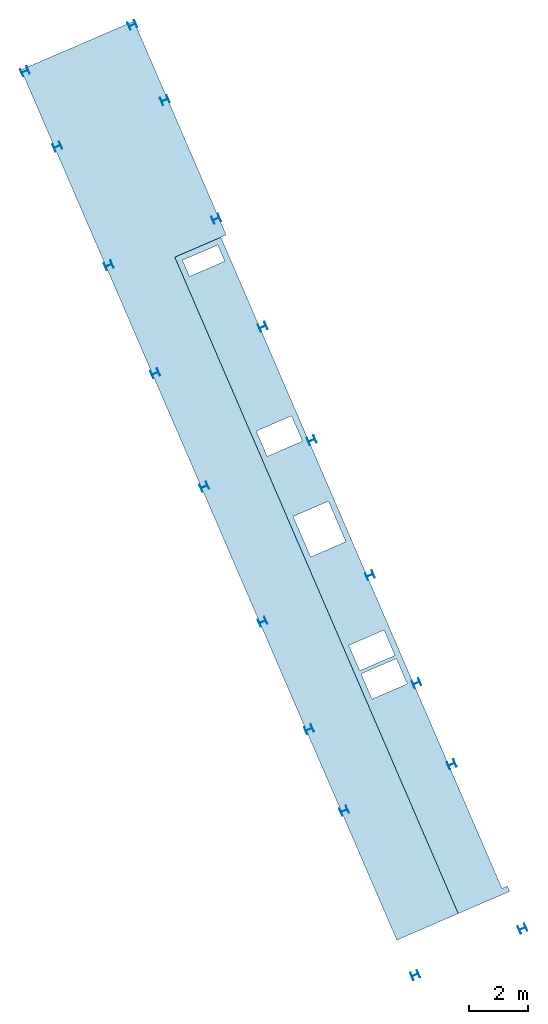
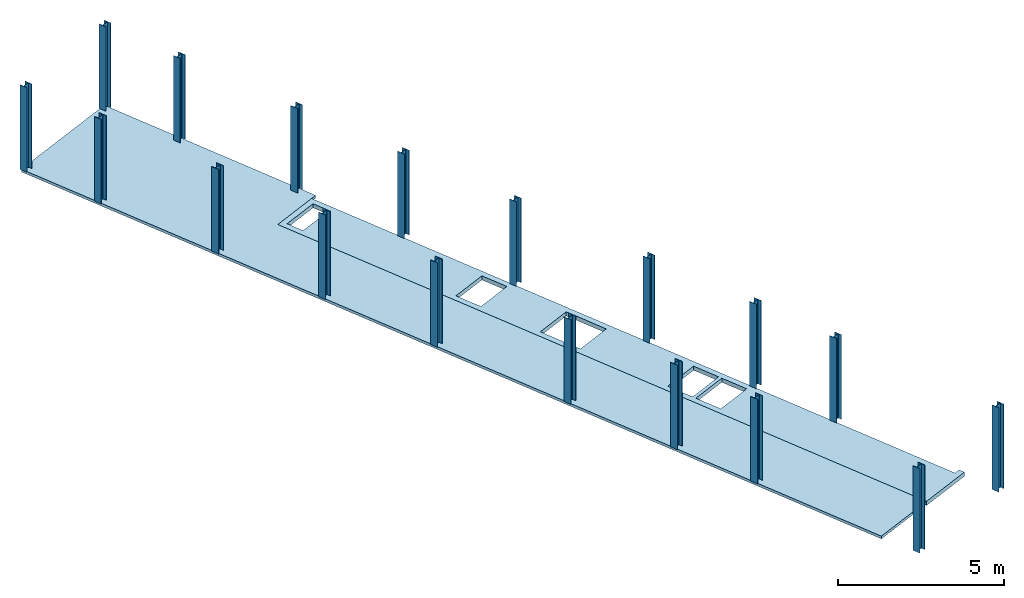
# One storey: 18 columns, 2 slabs, 5 openings.
"""IFC4 building model written with IfcOpenShell, lengths in metres."""

from ifc_helpers import new_model, entity, si_unit, converted_unit, derived_unit, direction, frame, origin, place, context, subcontext, project, spatial, line, arc, indexed_curve, outline, extrude, source, transform, mapped, material, type_object, type_shapes, element, save


model = new_model("IFC4")

# Units and contexts
model_context = context("Model", 3, precision=1e-05, world=origin(), true_north=direction((6.123233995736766e-17, 1.0)))
body_context = subcontext(model_context, "Body", "Model", "MODEL_VIEW")
ifc_project = project(units=[si_unit("LENGTHUNIT", "METRE"), si_unit("AREAUNIT", "SQUARE_METRE"), si_unit("VOLUMEUNIT", "CUBIC_METRE"), converted_unit("PLANEANGLEUNIT", "DEGREE", entity("IfcPlaneAngleMeasure", 0.017453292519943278), si_unit("PLANEANGLEUNIT", "RADIAN"), dimensions=[0, 0, 0, 0, 0, 0, 0]), derived_unit("THERMALTRANSMITTANCEUNIT", [(si_unit("MASSUNIT", "GRAM", prefix="KILO"), 1), (si_unit("THERMODYNAMICTEMPERATUREUNIT", "KELVIN"), -1), (si_unit("TIMEUNIT", "SECOND"), -3)]), derived_unit("USERDEFINED", [(si_unit("MASSUNIT", "GRAM", prefix="KILO"), 1), (si_unit("THERMODYNAMICTEMPERATUREUNIT", "KELVIN"), -1), (si_unit("TIMEUNIT", "SECOND"), -2)]), derived_unit("THERMALRESISTANCEUNIT", [(si_unit("MASSUNIT", "GRAM", prefix="KILO"), -1), (si_unit("TIMEUNIT", "SECOND"), 3), (si_unit("THERMODYNAMICTEMPERATUREUNIT", "KELVIN"), 1)]), si_unit("MASSUNIT", "GRAM", prefix="KILO"), derived_unit("MOMENTOFINERTIAUNIT", [(si_unit("LENGTHUNIT", "METRE"), 4)]), derived_unit("LINEARFORCEUNIT", [(si_unit("MASSUNIT", "GRAM", prefix="KILO"), 1), (si_unit("TIMEUNIT", "SECOND"), -2)]), derived_unit("WARPINGCONSTANTUNIT", [(si_unit("LENGTHUNIT", "METRE"), 6)])], contexts=[model_context])

# Site, building, storey
site_placement = place(None, origin())
site = spatial("IfcSite", under=ifc_project, at=site_placement, Name="Default", CompositionType="ELEMENT")
building_placement = place(site_placement, frame((-21.752541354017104, -73.50235179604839, 317.2999999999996), z_axis=(0.0, 0.0, 1.0), x_axis=(-0.39637753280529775, 0.918087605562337, 0.0)))
building = spatial("IfcBuilding", under=site, at=building_placement, Name="CESFAM Coyhaique", CompositionType="ELEMENT")
storey_placement = place(building_placement, frame((0.0, 0.0, -0.5499999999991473)))
storey = spatial("IfcBuildingStorey", under=building, at=storey_placement, Name="Nivel 1", CompositionType="ELEMENT", Elevation=-0.5499999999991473)

# Columns
ifc_material_1 = material(Name="Steel, 45-345", Category="Metal")
column_type_1 = type_object("IfcColumnType", Name="M_HP-Bearing Pile-Column:HP250X85", PredefinedType="COLUMN", material=ifc_material_1)
shared_shape_1 = source(origin(), body_context, "Body", "SweptSolid", [
    extrude(outline(indexed_curve([(-0.12999999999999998, -0.127), (0.12999999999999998, -0.127), (0.12999999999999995, -0.1126), (0.024800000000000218, -0.11260000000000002), (0.012354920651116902, -0.10744507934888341), (0.007199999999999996, -0.09499999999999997), (0.007199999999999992, 0.09499999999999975), (0.012354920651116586, 0.10744507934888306), (0.024799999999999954, 0.1126), (0.12999999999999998, 0.1126), (0.12999999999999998, 0.12699999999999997), (-0.12999999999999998, 0.12699999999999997), (-0.12999999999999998, 0.1126), (-0.02480000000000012, 0.11259999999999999), (-0.01235492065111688, 0.10744507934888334), (-0.007200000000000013, 0.09500000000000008), (-0.0072000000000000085, -0.09499999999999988), (-0.01235492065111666, -0.10744507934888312), (-0.024800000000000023, -0.1126), (-0.12999999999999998, -0.1126)], segments=[line(1, 2, 3, 4), arc(4, 5, 6), line(6, 7), arc(7, 8, 9), line(9, 10, 11, 12, 13, 14), arc(14, 15, 16), line(16, 17), arc(17, 18, 19), line(19, 20, 1)], self_intersect=False)), frame((0.0, 0.0, -0.5499999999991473), z_axis=(0.0, 0.0, 1.0), x_axis=(-1.0, 0.0, 0.0)), (0.0, 0.0, 1.0), 3.09999880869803),
])
type_shapes(column_type_1, [shared_shape_1])
for number, where in (
    (1, (-11.760106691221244, 5.81825811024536, 0.5499999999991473)),
    (2, (14.524893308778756, 5.818258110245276, 0.5499999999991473)),
    (3, (10.524893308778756, 5.8182581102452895, 0.5499999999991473)),
    (4, (6.324893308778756, 5.818258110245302, 0.5499999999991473)),
    (5, (1.3248933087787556, 5.818258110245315, 0.5499999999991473)),
    (6, (-2.665106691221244, 5.818258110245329, 0.5499999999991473)),
    (7, (-5.675106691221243, 5.818258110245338, 0.5499999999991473)),
    (8, (18.924893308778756, 5.818258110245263, 0.5499999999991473)),
    (9, (21.709893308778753, 5.818258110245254, 0.5499999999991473)),
):
    element("IfcColumn", number, at=place(storey_placement, frame(where)), inside=storey, type_object=column_type_1, Name="M_HP-Bearing Pile-Column:HP250X85", ObjectType="M_HP-Bearing Pile-Column:HP250X85", PredefinedType="COLUMN", context=body_context, shape_type="MappedRepresentation", body=[
        mapped(shared_shape_1, transform((0.0, 0.0, 0.0), scale=1.0)),
    ])
column_type_2 = type_object("IfcColumnType", Name="M_HP-Bearing Pile-Column:HP250X85", PredefinedType="COLUMN", material=ifc_material_1)
shared_shape_2 = source(origin(), body_context, "Body", "SweptSolid", [
    extrude(outline(indexed_curve([(-0.127, -0.12999999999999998), (-0.11259999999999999, -0.12999999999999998), (-0.11259999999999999, -0.02479999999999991), (-0.1074450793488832, -0.012354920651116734), (-0.09499999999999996, -0.007200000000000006), (0.09500000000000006, -0.0072000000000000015), (0.10744507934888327, -0.012354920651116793), (0.11260000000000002, -0.024800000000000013), (0.11260000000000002, -0.12999999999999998), (0.127, -0.12999999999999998), (0.127, 0.12999999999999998), (0.11260000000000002, 0.12999999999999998), (0.11259999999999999, 0.024799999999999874), (0.10744507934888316, 0.012354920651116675), (0.09499999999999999, 0.007200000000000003), (-0.0950000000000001, 0.007199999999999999), (-0.1074450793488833, 0.012354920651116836), (-0.11260000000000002, 0.024799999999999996), (-0.11259999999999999, 0.12999999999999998), (-0.127, 0.12999999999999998)], segments=[line(1, 2, 3), arc(3, 4, 5), line(5, 6), arc(6, 7, 8), line(8, 9, 10, 11, 12, 13), arc(13, 14, 15), line(15, 16), arc(16, 17, 18), line(18, 19, 20, 1)], self_intersect=False)), frame((0.0, 0.0, -0.5499999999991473), z_axis=(0.0, 0.0, 1.0), x_axis=(0.0, 1.0, 0.0)), (0.0, 0.0, 1.0), 3.09999880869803),
])
type_shapes(column_type_2, [shared_shape_2])
for number, where in (
    (10, (-11.76010669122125, 1.8382581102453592, 0.5499999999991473)),
    (11, (14.52489330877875, 1.8382581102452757, 0.5499999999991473)),
    (12, (10.524893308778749, 1.838258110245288, 0.5499999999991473)),
    (13, (6.324893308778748, 1.8382581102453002, 0.5499999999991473)),
    (14, (1.324893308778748, 1.8382581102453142, 0.5499999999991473)),
    (15, (-2.6651066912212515, 1.8382581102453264, 0.5499999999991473)),
    (16, (-5.67510669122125, 1.8382581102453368, 0.5499999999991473)),
    (17, (18.92489330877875, 1.8382581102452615, 0.5499999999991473)),
    (18, (21.709893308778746, 1.8382581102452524, 0.5499999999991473)),
):
    element("IfcColumn", number, at=place(storey_placement, frame(where)), inside=storey, type_object=column_type_2, Name="M_HP-Bearing Pile-Column:HP250X85", ObjectType="M_HP-Bearing Pile-Column:HP250X85", PredefinedType="COLUMN", context=body_context, shape_type="MappedRepresentation", body=[
        mapped(shared_shape_2, transform((0.0, 0.0, 0.0), scale=1.0)),
    ])

# Slab, openings
ifc_material_2 = material(Name="HA")
slab_type_1 = type_object("IfcSlabType", Name="Floor:Losa HA 150mm", PredefinedType="FLOOR", material=ifc_material_2)
slab_1_placement = place(storey_placement, origin())
slab_1 = element("IfcSlab", 19, at=slab_1_placement, inside=storey, type_object=slab_type_1, material=ifc_material_2, Name="Floor:Losa HA 150mm", ObjectType="Floor:Losa HA 150mm", PredefinedType="FLOOR", context=body_context, shape_type="SweptSolid", body=[
    extrude(outline(indexed_curve([(-12.461190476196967, -1.4807553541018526), (-12.261190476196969, -1.4807553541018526), (11.853809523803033, -1.4807553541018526), (11.853809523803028, 0.22457033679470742), (11.853809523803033, 0.4245703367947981), (11.653809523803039, 0.42457033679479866), (11.653809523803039, 0.22457033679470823), (7.403809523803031, 0.22457033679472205), (6.803809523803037, 0.22457033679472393), (4.393809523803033, 0.2245703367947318), (3.7938095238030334, 0.22457033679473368), (0.4038095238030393, 0.22457033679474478), (-0.1961904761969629, 0.22457033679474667), (-1.171190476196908, 0.22457033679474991), (-2.871190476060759, 0.22457033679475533), (-4.596190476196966, 0.22457033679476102), (-5.196190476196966, 0.2245703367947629), (-8.79619047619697, 0.22457033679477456), (-9.396190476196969, 0.22457033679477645), (-12.261190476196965, 0.22457033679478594), (-12.461190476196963, 0.22457033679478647), (-12.461190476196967, -1.4807553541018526)], self_intersect=False), holes=[indexed_curve([(-11.661190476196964, -1.280755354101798), (-12.261190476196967, -1.280755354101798), (-12.261190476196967, 0.02457033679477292), (-11.661190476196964, 0.02457033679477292), (-11.661190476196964, -1.280755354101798)], self_intersect=False), indexed_curve([(-4.996190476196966, -1.2807553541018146), (-5.931190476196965, -1.2807553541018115), (-5.931190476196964, 0.02457033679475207), (-5.196190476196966, 0.024570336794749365), (-4.996190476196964, 0.024570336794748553), (-4.996190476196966, -1.2807553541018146)], self_intersect=False), indexed_curve([(-1.2711904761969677, -1.2807553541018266), (-2.771190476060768, -1.2807553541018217), (-2.7711904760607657, 0.02457033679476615), (-1.2711904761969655, 0.024570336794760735), (-1.2711904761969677, -1.2807553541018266)], self_intersect=False), indexed_curve([(3.993809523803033, -1.280755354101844), (3.0588095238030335, -1.2807553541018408), (3.0588095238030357, 0.024570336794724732), (3.793809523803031, 0.024570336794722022), (3.9938095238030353, 0.02457033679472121), (3.993809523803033, -1.280755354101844)], self_intersect=False), indexed_curve([(2.9388095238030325, -1.2807553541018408), (2.003809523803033, -1.2807553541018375), (2.003809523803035, 0.02457033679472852), (2.9388095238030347, 0.024570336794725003), (2.9388095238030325, -1.2807553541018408)], self_intersect=False)]), frame((1.428702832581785, 2.162828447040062, -0.15000000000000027), z_axis=(0.0, 0.0, 1.0), x_axis=(-1.0, 0.0, 0.0)), (0.0, 0.0, 1.0), 0.15000000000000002),
])
opening_1_placement = place(slab_1_placement, origin())
element("IfcOpeningElement", 20, at=opening_1_placement, cuts=slab_1, Name="Floor:Losa HA 150mm", PredefinedType="OPENING", context=body_context, shape_type="SweptSolid", body=[
    extrude(outline(indexed_curve([(13.089893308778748, 3.44358380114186), (13.089893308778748, 2.138258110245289), (13.689893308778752, 2.138258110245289), (13.689893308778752, 3.44358380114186), (13.089893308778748, 3.44358380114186)], self_intersect=False)), origin(), (0.0, 0.0, -1.0), 0.15000000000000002),
])
opening_2_placement = place(slab_1_placement, origin())
element("IfcOpeningElement", 21, at=opening_2_placement, cuts=slab_1, Name="Floor:Losa HA 150mm", PredefinedType="OPENING", context=body_context, shape_type="SweptSolid", body=[
    extrude(outline(indexed_curve([(6.42489330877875, 3.4435838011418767), (6.424893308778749, 2.1382581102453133), (7.359893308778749, 2.1382581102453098), (7.35989330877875, 3.4435838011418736), (6.42489330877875, 3.4435838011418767)], self_intersect=False)), origin(), (0.0, 0.0, -1.0), 0.15000000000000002),
])
opening_3_placement = place(slab_1_placement, origin())
element("IfcOpeningElement", 22, at=opening_3_placement, cuts=slab_1, Name="Floor:Losa HA 150mm", PredefinedType="OPENING", context=body_context, shape_type="SweptSolid", body=[
    extrude(outline(indexed_curve([(2.6998933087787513, 3.4435838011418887), (2.6998933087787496, 2.1382581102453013), (4.199893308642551, 2.138258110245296), (4.199893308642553, 3.443583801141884), (2.6998933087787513, 3.4435838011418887)], self_intersect=False)), origin(), (0.0, 0.0, -1.0), 0.15000000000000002),
])
opening_4_placement = place(slab_1_placement, origin())
element("IfcOpeningElement", 23, at=opening_4_placement, cuts=slab_1, Name="Floor:Losa HA 150mm", PredefinedType="OPENING", context=body_context, shape_type="SweptSolid", body=[
    extrude(outline(indexed_curve([(-2.565106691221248, 3.443583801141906), (-2.5651066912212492, 2.138258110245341), (-1.63010669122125, 2.1382581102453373), (-1.6301066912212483, 3.443583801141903), (-2.565106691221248, 3.443583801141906)], self_intersect=False)), origin(), (0.0, 0.0, -1.0), 0.15000000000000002),
])
opening_5_placement = place(slab_1_placement, origin())
element("IfcOpeningElement", 24, at=opening_5_placement, cuts=slab_1, Name="Floor:Losa HA 150mm", PredefinedType="OPENING", context=body_context, shape_type="SweptSolid", body=[
    extrude(outline(indexed_curve([(-1.5101066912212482, 3.443583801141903), (-1.51010669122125, 2.138258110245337), (-0.5751066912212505, 2.1382581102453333), (-0.5751066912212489, 3.4435838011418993), (-1.5101066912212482, 3.443583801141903)], self_intersect=False)), origin(), (0.0, 0.0, -1.0), 0.15000000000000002),
])

# Slab
slab_type_2 = type_object("IfcSlabType", Name="Floor:Radier - 100mm", PredefinedType="FLOOR", material=ifc_material_2)
slab_2_placement = place(storey_placement, origin())
element("IfcSlab", 25, at=slab_2_placement, inside=storey, type_object=slab_type_2, material=ifc_material_2, Name="Floor:Radier - 100mm", ObjectType="Floor:Radier - 100mm", PredefinedType="FLOOR", context=body_context, shape_type="SweptSolid", body=[
    extrude(outline(indexed_curve([(-0.12311620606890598, -18.849999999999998), (2.1515581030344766, -18.849999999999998), (2.1515581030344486, 13.385000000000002), (-2.0284418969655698, 13.384999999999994), (-2.0284418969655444, 5.464999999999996), (-0.12311620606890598, 5.465000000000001), (-0.12311620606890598, -18.849999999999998)], self_intersect=False)), frame((8.424893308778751, 3.7667000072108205, 0.0), z_axis=(0.0, 0.0, -1.0), x_axis=(0.0, 1.0, 0.0)), (0.0, 0.0, 1.0), 0.1),
])

save(model, "model.ifc")
